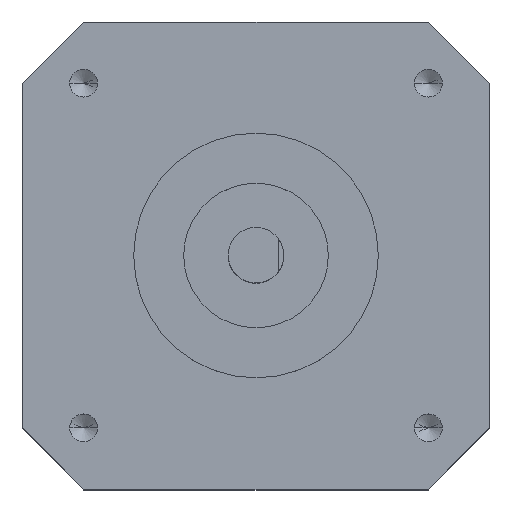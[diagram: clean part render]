
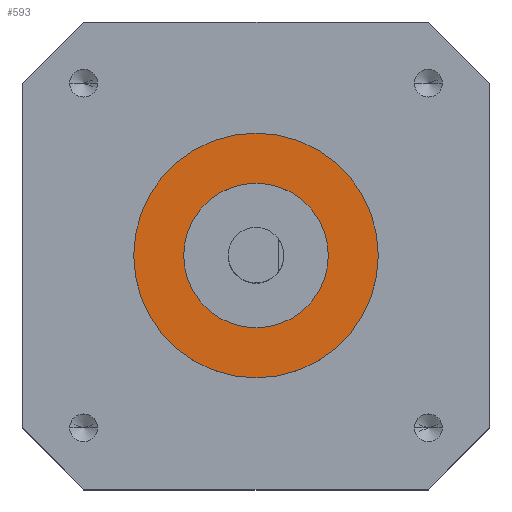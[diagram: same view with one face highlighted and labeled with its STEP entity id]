
A CAD part, top view. The second image highlights one B-rep face of the part: STEP entity #593.
In plain terms, the highlighted planar face has unit normal (0, 0, 1).
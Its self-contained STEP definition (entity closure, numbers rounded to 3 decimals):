
#206 = VERTEX_POINT ( 'NONE', #1562 ) ;
#275 = CARTESIAN_POINT ( 'NONE',  ( 11., 0., 2. ) ) ;
#357 = CARTESIAN_POINT ( 'NONE',  ( 0., 0., 2. ) ) ;
#491 = ORIENTED_EDGE ( 'NONE', *, *, #2783, .F. ) ;
#566 = CIRCLE ( 'NONE', #2983, 11. ) ;
#574 = VERTEX_POINT ( 'NONE', #2521 ) ;
#593 = ADVANCED_FACE ( 'NONE', ( #1302, #684 ), #2045, .T. ) ;
#597 = DIRECTION ( 'NONE',  ( 1., 0., 0. ) ) ;
#656 = CARTESIAN_POINT ( 'NONE',  ( 0., 0., 2. ) ) ;
#684 = FACE_BOUND ( 'NONE', #1447, .T. ) ;
#727 = VERTEX_POINT ( 'NONE', #1363 ) ;
#732 = AXIS2_PLACEMENT_3D ( 'NONE', #2666, #1279, #2894 ) ;
#771 = EDGE_CURVE ( 'NONE', #727, #1804, #2242, .T. ) ;
#886 = DIRECTION ( 'NONE',  ( 1., 0., 0. ) ) ;
#967 = CARTESIAN_POINT ( 'NONE',  ( 0., 0., 2. ) ) ;
#1002 = ORIENTED_EDGE ( 'NONE', *, *, #771, .T. ) ;
#1204 = DIRECTION ( 'NONE',  ( 1., 0., 0. ) ) ;
#1279 = DIRECTION ( 'NONE',  ( 0., 0., 1. ) ) ;
#1302 = FACE_OUTER_BOUND ( 'NONE', #2781, .T. ) ;
#1347 = CIRCLE ( 'NONE', #1470, 6.5 ) ;
#1360 = DIRECTION ( 'NONE',  ( 0., 0., 1. ) ) ;
#1363 = CARTESIAN_POINT ( 'NONE',  ( -11., 0., 2. ) ) ;
#1447 = EDGE_LOOP ( 'NONE', ( #2612, #491 ) ) ;
#1470 = AXIS2_PLACEMENT_3D ( 'NONE', #967, #2598, #1204 ) ;
#1562 = CARTESIAN_POINT ( 'NONE',  ( -6.5, 0., 2. ) ) ;
#1804 = VERTEX_POINT ( 'NONE', #275 ) ;
#1976 = DIRECTION ( 'NONE',  ( 0., 0., 1. ) ) ;
#2045 = PLANE ( 'NONE',  #2658 ) ;
#2073 = EDGE_CURVE ( 'NONE', #206, #574, #1347, .T. ) ;
#2242 = CIRCLE ( 'NONE', #732, 11. ) ;
#2270 = DIRECTION ( 'NONE',  ( 0., 0., 1. ) ) ;
#2308 = AXIS2_PLACEMENT_3D ( 'NONE', #656, #2270, #886 ) ;
#2521 = CARTESIAN_POINT ( 'NONE',  ( 6.5, 0., 2. ) ) ;
#2526 = CARTESIAN_POINT ( 'NONE',  ( 0., 0., 2. ) ) ;
#2598 = DIRECTION ( 'NONE',  ( 0., 0., 1. ) ) ;
#2612 = ORIENTED_EDGE ( 'NONE', *, *, #2073, .F. ) ;
#2647 = EDGE_CURVE ( 'NONE', #1804, #727, #566, .T. ) ;
#2658 = AXIS2_PLACEMENT_3D ( 'NONE', #2526, #1360, #2981 ) ;
#2666 = CARTESIAN_POINT ( 'NONE',  ( 0., 0., 2. ) ) ;
#2781 = EDGE_LOOP ( 'NONE', ( #1002, #2821 ) ) ;
#2783 = EDGE_CURVE ( 'NONE', #574, #206, #2988, .T. ) ;
#2821 = ORIENTED_EDGE ( 'NONE', *, *, #2647, .T. ) ;
#2894 = DIRECTION ( 'NONE',  ( 1., 0., 0. ) ) ;
#2981 = DIRECTION ( 'NONE',  ( 1., 0., 0. ) ) ;
#2983 = AXIS2_PLACEMENT_3D ( 'NONE', #357, #1976, #597 ) ;
#2988 = CIRCLE ( 'NONE', #2308, 6.5 ) ;
